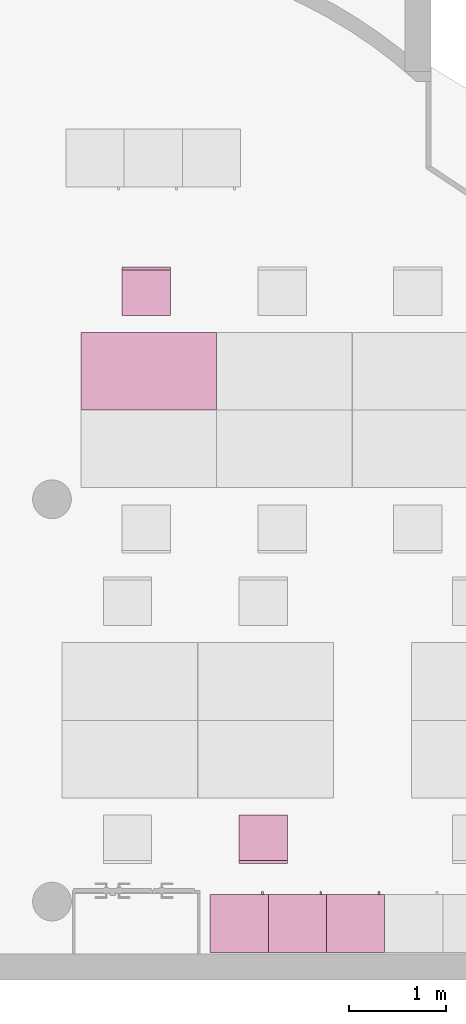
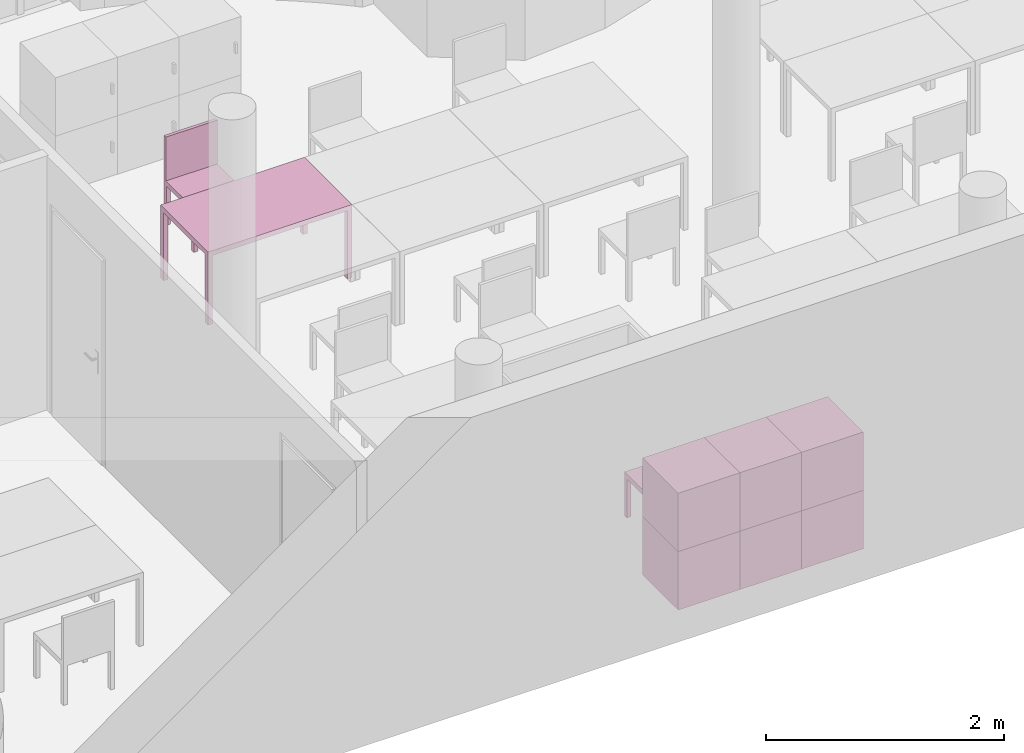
"""IFC4 building model written with IfcOpenShell, lengths in metres."""

from ifc_helpers import new_model, entity, si_unit, converted_unit, derived_unit, frame, origin, place, context, subcontext, project, spatial, faceted_brep, element, save


model = new_model("IFC4")

# Units and contexts
model_context = context("Model", 3, precision=1e-05, world=origin())
body_context = subcontext(model_context, "Body", "Model", "MODEL_VIEW")
ifc_project = project(units=[si_unit("LENGTHUNIT", "METRE"), si_unit("AREAUNIT", "SQUARE_METRE"), si_unit("VOLUMEUNIT", "CUBIC_METRE"), si_unit("MASSUNIT", "GRAM", prefix="KILO"), converted_unit("PLANEANGLEUNIT", "DEGREE", entity("IfcPlaneAngleMeasure", 0.0174532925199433), si_unit("PLANEANGLEUNIT", "RADIAN"), dimensions=[0, 0, 0, 0, 0, 0, 0]), derived_unit("THERMALTRANSMITTANCEUNIT", [(si_unit("POWERUNIT", "WATT"), 1), (si_unit("THERMODYNAMICTEMPERATUREUNIT", "KELVIN"), -1), (si_unit("LENGTHUNIT", "METRE"), -2)]), derived_unit("VOLUMETRICFLOWRATEUNIT", [(si_unit("LENGTHUNIT", "METRE"), 3), (converted_unit("TIMEUNIT", "hour", entity("IfcTimeMeasure", 3600.0), si_unit("TIMEUNIT", "SECOND"), dimensions=[0, 0, 1, 0, 0, 0, 0]), -1), (si_unit("LENGTHUNIT", "METRE"), -1)])], contexts=[model_context])

# Building, storeys
building_placement = place(None, origin())
building = spatial("IfcBuilding", under=ifc_project, at=building_placement, Name="HABITATGE PLURIFAMILIAR", CompositionType="ELEMENT")
storey_1_placement = place(building_placement, frame((0.0, 0.0, 18.29)))
storey_1 = spatial("IfcBuildingStorey", under=building, at=storey_1_placement, Name="PLANTA CINQUENA", CompositionType="ELEMENT", Elevation=18.29)
storey_2_placement = place(storey_1_placement, frame((0.0, 0.0, 15.28)))
storey_2 = spatial("IfcBuildingStorey", under=storey_1, at=storey_2_placement, Name="NOU", CompositionType="PARTIAL")

# Furniture
furniture_1_placement = place(storey_2_placement, frame((406.13406342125, 18.7194567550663, -15.28)))
element("IfcFurniture", 1, at=furniture_1_placement, inside=storey_2, Name="Taula 140X80_P5", context=body_context, shape_type="Brep", body=[
    faceted_brep([(0.04375, 0.05, 0.0), (0.0, 0.05, 0.0), (0.0, 0.0, 0.0), (0.04375, 0.0, 0.0), (0.04375, 0.0, 0.7), (0.0, 0.0, 0.7), (0.0, 0.05, 0.7), (0.04375, 0.05, 0.7)], [[[0, 1, 2, 3]], [[4, 5, 6, 7]], [[3, 4, 7, 0]], [[2, 5, 4, 3]], [[1, 6, 5, 2]], [[0, 7, 6, 1]]], orient=[[False], [False], [False], [False], [False], [False]]),
    faceted_brep([(0.04375, 0.800069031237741, 0.0), (0.0, 0.800069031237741, 0.0), (0.0, 0.750069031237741, 0.0), (0.04375, 0.750069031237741, 0.0), (0.04375, 0.750069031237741, 0.7), (0.0, 0.750069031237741, 0.7), (0.0, 0.800069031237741, 0.7), (0.04375, 0.800069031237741, 0.7)], [[[0, 1, 2, 3]], [[4, 5, 6, 7]], [[3, 4, 7, 0]], [[2, 5, 4, 3]], [[1, 6, 5, 2]], [[0, 7, 6, 1]]], orient=[[False], [False], [False], [False], [False], [False]]),
    faceted_brep([(1.39732768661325, 0.800069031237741, 0.7), (0.0, 0.800069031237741, 0.7), (0.0, 0.0, 0.7), (1.39732768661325, 0.0, 0.7), (1.39732768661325, 0.0, 0.75), (0.0, 0.0, 0.75), (0.0, 0.800069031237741, 0.75), (1.39732768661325, 0.800069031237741, 0.75)], [[[0, 1, 2, 3]], [[4, 5, 6, 7]], [[3, 4, 7, 0]], [[2, 5, 4, 3]], [[1, 6, 5, 2]], [[0, 7, 6, 1]]], orient=[[False], [False], [False], [False], [False], [False]]),
    faceted_brep([(1.39732768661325, 0.05, 0.0), (1.35357768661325, 0.05, 0.0), (1.35357768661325, 0.0, 0.0), (1.39732768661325, 0.0, 0.0), (1.39732768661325, 0.0, 0.7), (1.35357768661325, 0.0, 0.7), (1.35357768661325, 0.05, 0.7), (1.39732768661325, 0.05, 0.7)], [[[0, 1, 2, 3]], [[4, 5, 6, 7]], [[3, 4, 7, 0]], [[2, 5, 4, 3]], [[1, 6, 5, 2]], [[0, 7, 6, 1]]], orient=[[False], [False], [False], [False], [False], [False]]),
    faceted_brep([(1.39732768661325, 0.800069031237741, 0.0), (1.35357768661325, 0.800069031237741, 0.0), (1.35357768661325, 0.750069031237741, 0.0), (1.39732768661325, 0.750069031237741, 0.0), (1.39732768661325, 0.750069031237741, 0.7), (1.35357768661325, 0.750069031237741, 0.7), (1.35357768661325, 0.800069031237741, 0.7), (1.39732768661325, 0.800069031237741, 0.7)], [[[0, 1, 2, 3]], [[4, 5, 6, 7]], [[3, 4, 7, 0]], [[2, 5, 4, 3]], [[1, 6, 5, 2]], [[0, 7, 6, 1]]], orient=[[False], [False], [False], [False], [False], [False]]),
])
furniture_2_placement = place(storey_2_placement, frame((408.669266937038, 13.1230771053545, -15.2800000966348)))
element("IfcFurniture", 2, at=furniture_2_placement, inside=storey_2, Name="Armai 60x60x60_P5", context=body_context, shape_type="Brep", body=[
    faceted_brep([(0.600000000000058, 0.6, 0.02), (0.0, 0.6, 0.02), (0.0, 0.6, 0.0), (0.600000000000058, 0.6, 0.0), (0.0, 0.0, 0.02), (0.0, 0.0, 0.0), (0.600000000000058, 0.0, 0.02), (0.600000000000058, 0.0, 0.0)], [[[0, 1, 2, 3]], [[1, 4, 5, 2]], [[4, 6, 7, 5]], [[6, 0, 3, 7]], [[0, 6, 4, 1]], [[3, 2, 5, 7]]], orient=[[False], [False], [False], [False], [False], [False]]),
    faceted_brep([(0.02, 0.0, 0.58), (0.02, 0.0, 0.02), (0.02, 0.0200000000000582, 0.02), (0.02, 0.0200000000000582, 0.58), (0.58, 0.0, 0.02), (0.58, 0.0200000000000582, 0.02), (0.58, 0.0, 0.58), (0.58, 0.0200000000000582, 0.58)], [[[0, 1, 2, 3]], [[1, 4, 5, 2]], [[4, 6, 7, 5]], [[6, 0, 3, 7]], [[0, 6, 4, 1]], [[3, 2, 5, 7]]], orient=[[False], [False], [False], [False], [False], [False]]),
    faceted_brep([(0.58, 0.6, 0.58), (0.58, 0.6, 0.02), (0.6, 0.6, 0.02), (0.6, 0.6, 0.58), (0.58, 0.0, 0.02), (0.6, 0.0, 0.02), (0.58, 0.0, 0.58), (0.6, 0.0, 0.58)], [[[0, 1, 2, 3]], [[1, 4, 5, 2]], [[4, 6, 7, 5]], [[6, 0, 3, 7]], [[0, 6, 4, 1]], [[3, 2, 5, 7]]], orient=[[False], [False], [False], [False], [False], [False]]),
    faceted_brep([(0.600000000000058, 0.58, 0.58), (0.600000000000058, 0.58, 0.02), (0.600000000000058, 0.6, 0.02), (0.600000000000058, 0.6, 0.58), (0.580000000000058, 0.58, 0.02), (0.580000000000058, 0.6, 0.02), (0.580000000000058, 0.58, 0.58), (0.580000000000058, 0.6, 0.58)], [[[0, 1, 2, 3]], [[1, 4, 5, 2]], [[4, 6, 7, 5]], [[6, 0, 3, 7]], [[0, 6, 4, 1]], [[3, 2, 5, 7]]], orient=[[False], [False], [False], [False], [False], [False]]),
    faceted_brep([(0.0, 0.6, 0.58), (0.0, 0.6, 0.02), (0.0200000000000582, 0.6, 0.02), (0.0200000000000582, 0.6, 0.58), (0.0, 0.0, 0.02), (0.0200000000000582, 0.0, 0.02), (0.0, 0.0, 0.58), (0.0200000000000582, 0.0, 0.58)], [[[0, 1, 2, 3]], [[1, 4, 5, 2]], [[4, 6, 7, 5]], [[6, 0, 3, 7]], [[0, 6, 4, 1]], [[3, 2, 5, 7]]], orient=[[False], [False], [False], [False], [False], [False]]),
    faceted_brep([(0.6, 0.600000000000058, 0.6), (0.0, 0.600000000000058, 0.6), (0.0, 0.600000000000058, 0.58), (0.6, 0.600000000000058, 0.58), (0.0, 0.0, 0.6), (0.0, 0.0, 0.58), (0.6, 0.0, 0.6), (0.6, 0.0, 0.58)], [[[0, 1, 2, 3]], [[1, 4, 5, 2]], [[4, 6, 7, 5]], [[6, 0, 3, 7]], [[0, 6, 4, 1]], [[3, 2, 5, 7]]], orient=[[False], [False], [False], [False], [False], [False]]),
    faceted_brep([(0.02, 0.580000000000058, 0.58), (0.02, 0.580000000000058, 0.02), (0.02, 0.600000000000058, 0.02), (0.02, 0.600000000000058, 0.58), (0.580000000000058, 0.580000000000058, 0.02), (0.580000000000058, 0.600000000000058, 0.02), (0.580000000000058, 0.580000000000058, 0.58), (0.580000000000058, 0.600000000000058, 0.58)], [[[0, 1, 2, 3]], [[1, 4, 5, 2]], [[4, 6, 7, 5]], [[6, 0, 3, 7]], [[0, 6, 4, 1]], [[3, 2, 5, 7]]], orient=[[False], [False], [False], [False], [False], [False]]),
    faceted_brep([(0.53, 0.600000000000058, 0.358064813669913), (0.53, 0.600000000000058, 0.258064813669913), (0.53, 0.630000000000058, 0.258064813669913), (0.53, 0.630000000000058, 0.358064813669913), (0.55, 0.600000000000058, 0.258064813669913), (0.55, 0.630000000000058, 0.258064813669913), (0.55, 0.600000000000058, 0.358064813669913), (0.55, 0.630000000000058, 0.358064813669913)], [[[0, 1, 2, 3]], [[1, 4, 5, 2]], [[4, 6, 7, 5]], [[6, 0, 3, 7]], [[0, 6, 4, 1]], [[3, 2, 5, 7]]], orient=[[False], [False], [False], [False], [False], [False]]),
])
furniture_3_placement = place(storey_2_placement, frame((408.069266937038, 13.1230771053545, -15.2800000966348)))
element("IfcFurniture", 3, at=furniture_3_placement, inside=storey_2, Name="Armai 60x60x60_P5", context=body_context, shape_type="Brep", body=[
    faceted_brep([(0.600000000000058, 0.6, 0.02), (0.0, 0.6, 0.02), (0.0, 0.6, 0.0), (0.600000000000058, 0.6, 0.0), (0.0, 0.0, 0.02), (0.0, 0.0, 0.0), (0.600000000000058, 0.0, 0.02), (0.600000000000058, 0.0, 0.0)], [[[0, 1, 2, 3]], [[1, 4, 5, 2]], [[4, 6, 7, 5]], [[6, 0, 3, 7]], [[0, 6, 4, 1]], [[3, 2, 5, 7]]], orient=[[False], [False], [False], [False], [False], [False]]),
    faceted_brep([(0.02, 0.0, 0.58), (0.02, 0.0, 0.02), (0.02, 0.0200000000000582, 0.02), (0.02, 0.0200000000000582, 0.58), (0.58, 0.0, 0.02), (0.58, 0.0200000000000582, 0.02), (0.58, 0.0, 0.58), (0.58, 0.0200000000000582, 0.58)], [[[0, 1, 2, 3]], [[1, 4, 5, 2]], [[4, 6, 7, 5]], [[6, 0, 3, 7]], [[0, 6, 4, 1]], [[3, 2, 5, 7]]], orient=[[False], [False], [False], [False], [False], [False]]),
    faceted_brep([(0.58, 0.6, 0.58), (0.58, 0.6, 0.02), (0.6, 0.6, 0.02), (0.6, 0.6, 0.58), (0.58, 0.0, 0.02), (0.6, 0.0, 0.02), (0.58, 0.0, 0.58), (0.6, 0.0, 0.58)], [[[0, 1, 2, 3]], [[1, 4, 5, 2]], [[4, 6, 7, 5]], [[6, 0, 3, 7]], [[0, 6, 4, 1]], [[3, 2, 5, 7]]], orient=[[False], [False], [False], [False], [False], [False]]),
    faceted_brep([(0.600000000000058, 0.58, 0.58), (0.600000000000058, 0.58, 0.02), (0.600000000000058, 0.6, 0.02), (0.600000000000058, 0.6, 0.58), (0.580000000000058, 0.58, 0.02), (0.580000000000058, 0.6, 0.02), (0.580000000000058, 0.58, 0.58), (0.580000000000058, 0.6, 0.58)], [[[0, 1, 2, 3]], [[1, 4, 5, 2]], [[4, 6, 7, 5]], [[6, 0, 3, 7]], [[0, 6, 4, 1]], [[3, 2, 5, 7]]], orient=[[False], [False], [False], [False], [False], [False]]),
    faceted_brep([(0.0, 0.6, 0.58), (0.0, 0.6, 0.02), (0.0200000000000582, 0.6, 0.02), (0.0200000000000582, 0.6, 0.58), (0.0, 0.0, 0.02), (0.0200000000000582, 0.0, 0.02), (0.0, 0.0, 0.58), (0.0200000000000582, 0.0, 0.58)], [[[0, 1, 2, 3]], [[1, 4, 5, 2]], [[4, 6, 7, 5]], [[6, 0, 3, 7]], [[0, 6, 4, 1]], [[3, 2, 5, 7]]], orient=[[False], [False], [False], [False], [False], [False]]),
    faceted_brep([(0.6, 0.600000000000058, 0.6), (0.0, 0.600000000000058, 0.6), (0.0, 0.600000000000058, 0.58), (0.6, 0.600000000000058, 0.58), (0.0, 0.0, 0.6), (0.0, 0.0, 0.58), (0.6, 0.0, 0.6), (0.6, 0.0, 0.58)], [[[0, 1, 2, 3]], [[1, 4, 5, 2]], [[4, 6, 7, 5]], [[6, 0, 3, 7]], [[0, 6, 4, 1]], [[3, 2, 5, 7]]], orient=[[False], [False], [False], [False], [False], [False]]),
    faceted_brep([(0.02, 0.580000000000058, 0.58), (0.02, 0.580000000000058, 0.02), (0.02, 0.600000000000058, 0.02), (0.02, 0.600000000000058, 0.58), (0.580000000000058, 0.580000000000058, 0.02), (0.580000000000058, 0.600000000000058, 0.02), (0.580000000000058, 0.580000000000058, 0.58), (0.580000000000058, 0.600000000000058, 0.58)], [[[0, 1, 2, 3]], [[1, 4, 5, 2]], [[4, 6, 7, 5]], [[6, 0, 3, 7]], [[0, 6, 4, 1]], [[3, 2, 5, 7]]], orient=[[False], [False], [False], [False], [False], [False]]),
    faceted_brep([(0.53, 0.600000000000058, 0.358064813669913), (0.53, 0.600000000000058, 0.258064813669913), (0.53, 0.630000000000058, 0.258064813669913), (0.53, 0.630000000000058, 0.358064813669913), (0.55, 0.600000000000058, 0.258064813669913), (0.55, 0.630000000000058, 0.258064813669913), (0.55, 0.600000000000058, 0.358064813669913), (0.55, 0.630000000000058, 0.358064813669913)], [[[0, 1, 2, 3]], [[1, 4, 5, 2]], [[4, 6, 7, 5]], [[6, 0, 3, 7]], [[0, 6, 4, 1]], [[3, 2, 5, 7]]], orient=[[False], [False], [False], [False], [False], [False]]),
])
furniture_4_placement = place(storey_2_placement, frame((407.469266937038, 13.1230771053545, -15.2800000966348)))
element("IfcFurniture", 4, at=furniture_4_placement, inside=storey_2, Name="Armai 60x60x60_P5", context=body_context, shape_type="Brep", body=[
    faceted_brep([(0.600000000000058, 0.6, 0.02), (0.0, 0.6, 0.02), (0.0, 0.6, 0.0), (0.600000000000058, 0.6, 0.0), (0.0, 0.0, 0.02), (0.0, 0.0, 0.0), (0.600000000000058, 0.0, 0.02), (0.600000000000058, 0.0, 0.0)], [[[0, 1, 2, 3]], [[1, 4, 5, 2]], [[4, 6, 7, 5]], [[6, 0, 3, 7]], [[0, 6, 4, 1]], [[3, 2, 5, 7]]], orient=[[False], [False], [False], [False], [False], [False]]),
    faceted_brep([(0.02, 0.0, 0.58), (0.02, 0.0, 0.02), (0.02, 0.0200000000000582, 0.02), (0.02, 0.0200000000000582, 0.58), (0.58, 0.0, 0.02), (0.58, 0.0200000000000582, 0.02), (0.58, 0.0, 0.58), (0.58, 0.0200000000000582, 0.58)], [[[0, 1, 2, 3]], [[1, 4, 5, 2]], [[4, 6, 7, 5]], [[6, 0, 3, 7]], [[0, 6, 4, 1]], [[3, 2, 5, 7]]], orient=[[False], [False], [False], [False], [False], [False]]),
    faceted_brep([(0.58, 0.6, 0.58), (0.58, 0.6, 0.02), (0.6, 0.6, 0.02), (0.6, 0.6, 0.58), (0.58, 0.0, 0.02), (0.6, 0.0, 0.02), (0.58, 0.0, 0.58), (0.6, 0.0, 0.58)], [[[0, 1, 2, 3]], [[1, 4, 5, 2]], [[4, 6, 7, 5]], [[6, 0, 3, 7]], [[0, 6, 4, 1]], [[3, 2, 5, 7]]], orient=[[False], [False], [False], [False], [False], [False]]),
    faceted_brep([(0.600000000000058, 0.58, 0.58), (0.600000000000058, 0.58, 0.02), (0.600000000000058, 0.6, 0.02), (0.600000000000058, 0.6, 0.58), (0.580000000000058, 0.58, 0.02), (0.580000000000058, 0.6, 0.02), (0.580000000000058, 0.58, 0.58), (0.580000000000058, 0.6, 0.58)], [[[0, 1, 2, 3]], [[1, 4, 5, 2]], [[4, 6, 7, 5]], [[6, 0, 3, 7]], [[0, 6, 4, 1]], [[3, 2, 5, 7]]], orient=[[False], [False], [False], [False], [False], [False]]),
    faceted_brep([(0.0, 0.6, 0.58), (0.0, 0.6, 0.02), (0.0200000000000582, 0.6, 0.02), (0.0200000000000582, 0.6, 0.58), (0.0, 0.0, 0.02), (0.0200000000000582, 0.0, 0.02), (0.0, 0.0, 0.58), (0.0200000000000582, 0.0, 0.58)], [[[0, 1, 2, 3]], [[1, 4, 5, 2]], [[4, 6, 7, 5]], [[6, 0, 3, 7]], [[0, 6, 4, 1]], [[3, 2, 5, 7]]], orient=[[False], [False], [False], [False], [False], [False]]),
    faceted_brep([(0.6, 0.600000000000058, 0.6), (0.0, 0.600000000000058, 0.6), (0.0, 0.600000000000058, 0.58), (0.6, 0.600000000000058, 0.58), (0.0, 0.0, 0.6), (0.0, 0.0, 0.58), (0.6, 0.0, 0.6), (0.6, 0.0, 0.58)], [[[0, 1, 2, 3]], [[1, 4, 5, 2]], [[4, 6, 7, 5]], [[6, 0, 3, 7]], [[0, 6, 4, 1]], [[3, 2, 5, 7]]], orient=[[False], [False], [False], [False], [False], [False]]),
    faceted_brep([(0.02, 0.580000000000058, 0.58), (0.02, 0.580000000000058, 0.02), (0.02, 0.600000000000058, 0.02), (0.02, 0.600000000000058, 0.58), (0.580000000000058, 0.580000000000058, 0.02), (0.580000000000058, 0.600000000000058, 0.02), (0.580000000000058, 0.580000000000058, 0.58), (0.580000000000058, 0.600000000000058, 0.58)], [[[0, 1, 2, 3]], [[1, 4, 5, 2]], [[4, 6, 7, 5]], [[6, 0, 3, 7]], [[0, 6, 4, 1]], [[3, 2, 5, 7]]], orient=[[False], [False], [False], [False], [False], [False]]),
    faceted_brep([(0.53, 0.600000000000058, 0.358064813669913), (0.53, 0.600000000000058, 0.258064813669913), (0.53, 0.630000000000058, 0.258064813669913), (0.53, 0.630000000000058, 0.358064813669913), (0.55, 0.600000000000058, 0.258064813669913), (0.55, 0.630000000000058, 0.258064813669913), (0.55, 0.600000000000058, 0.358064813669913), (0.55, 0.630000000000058, 0.358064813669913)], [[[0, 1, 2, 3]], [[1, 4, 5, 2]], [[4, 6, 7, 5]], [[6, 0, 3, 7]], [[0, 6, 4, 1]], [[3, 2, 5, 7]]], orient=[[False], [False], [False], [False], [False], [False]]),
])
furniture_5_placement = place(storey_2_placement, frame((408.669266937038, 13.1230771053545, -14.6800000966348)))
element("IfcFurniture", 5, at=furniture_5_placement, inside=storey_2, Name="Armai 60x60x60_P5", context=body_context, shape_type="Brep", body=[
    faceted_brep([(0.600000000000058, 0.6, 0.02), (0.0, 0.6, 0.02), (0.0, 0.6, 0.0), (0.600000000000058, 0.6, 0.0), (0.0, 0.0, 0.02), (0.0, 0.0, 0.0), (0.600000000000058, 0.0, 0.02), (0.600000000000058, 0.0, 0.0)], [[[0, 1, 2, 3]], [[1, 4, 5, 2]], [[4, 6, 7, 5]], [[6, 0, 3, 7]], [[0, 6, 4, 1]], [[3, 2, 5, 7]]], orient=[[False], [False], [False], [False], [False], [False]]),
    faceted_brep([(0.02, 0.0, 0.58), (0.02, 0.0, 0.02), (0.02, 0.0200000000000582, 0.02), (0.02, 0.0200000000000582, 0.58), (0.58, 0.0, 0.02), (0.58, 0.0200000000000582, 0.02), (0.58, 0.0, 0.58), (0.58, 0.0200000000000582, 0.58)], [[[0, 1, 2, 3]], [[1, 4, 5, 2]], [[4, 6, 7, 5]], [[6, 0, 3, 7]], [[0, 6, 4, 1]], [[3, 2, 5, 7]]], orient=[[False], [False], [False], [False], [False], [False]]),
    faceted_brep([(0.58, 0.6, 0.58), (0.58, 0.6, 0.02), (0.6, 0.6, 0.02), (0.6, 0.6, 0.58), (0.58, 0.0, 0.02), (0.6, 0.0, 0.02), (0.58, 0.0, 0.58), (0.6, 0.0, 0.58)], [[[0, 1, 2, 3]], [[1, 4, 5, 2]], [[4, 6, 7, 5]], [[6, 0, 3, 7]], [[0, 6, 4, 1]], [[3, 2, 5, 7]]], orient=[[False], [False], [False], [False], [False], [False]]),
    faceted_brep([(0.600000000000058, 0.58, 0.58), (0.600000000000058, 0.58, 0.02), (0.600000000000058, 0.6, 0.02), (0.600000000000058, 0.6, 0.58), (0.580000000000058, 0.58, 0.02), (0.580000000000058, 0.6, 0.02), (0.580000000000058, 0.58, 0.58), (0.580000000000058, 0.6, 0.58)], [[[0, 1, 2, 3]], [[1, 4, 5, 2]], [[4, 6, 7, 5]], [[6, 0, 3, 7]], [[0, 6, 4, 1]], [[3, 2, 5, 7]]], orient=[[False], [False], [False], [False], [False], [False]]),
    faceted_brep([(0.0, 0.6, 0.58), (0.0, 0.6, 0.02), (0.0200000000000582, 0.6, 0.02), (0.0200000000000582, 0.6, 0.58), (0.0, 0.0, 0.02), (0.0200000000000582, 0.0, 0.02), (0.0, 0.0, 0.58), (0.0200000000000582, 0.0, 0.58)], [[[0, 1, 2, 3]], [[1, 4, 5, 2]], [[4, 6, 7, 5]], [[6, 0, 3, 7]], [[0, 6, 4, 1]], [[3, 2, 5, 7]]], orient=[[False], [False], [False], [False], [False], [False]]),
    faceted_brep([(0.6, 0.600000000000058, 0.6), (0.0, 0.600000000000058, 0.6), (0.0, 0.600000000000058, 0.58), (0.6, 0.600000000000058, 0.58), (0.0, 0.0, 0.6), (0.0, 0.0, 0.58), (0.6, 0.0, 0.6), (0.6, 0.0, 0.58)], [[[0, 1, 2, 3]], [[1, 4, 5, 2]], [[4, 6, 7, 5]], [[6, 0, 3, 7]], [[0, 6, 4, 1]], [[3, 2, 5, 7]]], orient=[[False], [False], [False], [False], [False], [False]]),
    faceted_brep([(0.02, 0.580000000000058, 0.58), (0.02, 0.580000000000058, 0.02), (0.02, 0.600000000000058, 0.02), (0.02, 0.600000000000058, 0.58), (0.580000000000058, 0.580000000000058, 0.02), (0.580000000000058, 0.600000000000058, 0.02), (0.580000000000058, 0.580000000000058, 0.58), (0.580000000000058, 0.600000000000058, 0.58)], [[[0, 1, 2, 3]], [[1, 4, 5, 2]], [[4, 6, 7, 5]], [[6, 0, 3, 7]], [[0, 6, 4, 1]], [[3, 2, 5, 7]]], orient=[[False], [False], [False], [False], [False], [False]]),
    faceted_brep([(0.53, 0.600000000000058, 0.358064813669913), (0.53, 0.600000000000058, 0.258064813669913), (0.53, 0.630000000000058, 0.258064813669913), (0.53, 0.630000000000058, 0.358064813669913), (0.55, 0.600000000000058, 0.258064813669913), (0.55, 0.630000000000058, 0.258064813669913), (0.55, 0.600000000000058, 0.358064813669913), (0.55, 0.630000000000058, 0.358064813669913)], [[[0, 1, 2, 3]], [[1, 4, 5, 2]], [[4, 6, 7, 5]], [[6, 0, 3, 7]], [[0, 6, 4, 1]], [[3, 2, 5, 7]]], orient=[[False], [False], [False], [False], [False], [False]]),
])
furniture_6_placement = place(storey_2_placement, frame((408.069266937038, 13.1230771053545, -14.6800000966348)))
element("IfcFurniture", 6, at=furniture_6_placement, inside=storey_2, Name="Armai 60x60x60_P5", context=body_context, shape_type="Brep", body=[
    faceted_brep([(0.600000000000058, 0.6, 0.02), (0.0, 0.6, 0.02), (0.0, 0.6, 0.0), (0.600000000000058, 0.6, 0.0), (0.0, 0.0, 0.02), (0.0, 0.0, 0.0), (0.600000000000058, 0.0, 0.02), (0.600000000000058, 0.0, 0.0)], [[[0, 1, 2, 3]], [[1, 4, 5, 2]], [[4, 6, 7, 5]], [[6, 0, 3, 7]], [[0, 6, 4, 1]], [[3, 2, 5, 7]]], orient=[[False], [False], [False], [False], [False], [False]]),
    faceted_brep([(0.02, 0.0, 0.58), (0.02, 0.0, 0.02), (0.02, 0.0200000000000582, 0.02), (0.02, 0.0200000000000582, 0.58), (0.58, 0.0, 0.02), (0.58, 0.0200000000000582, 0.02), (0.58, 0.0, 0.58), (0.58, 0.0200000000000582, 0.58)], [[[0, 1, 2, 3]], [[1, 4, 5, 2]], [[4, 6, 7, 5]], [[6, 0, 3, 7]], [[0, 6, 4, 1]], [[3, 2, 5, 7]]], orient=[[False], [False], [False], [False], [False], [False]]),
    faceted_brep([(0.58, 0.6, 0.58), (0.58, 0.6, 0.02), (0.6, 0.6, 0.02), (0.6, 0.6, 0.58), (0.58, 0.0, 0.02), (0.6, 0.0, 0.02), (0.58, 0.0, 0.58), (0.6, 0.0, 0.58)], [[[0, 1, 2, 3]], [[1, 4, 5, 2]], [[4, 6, 7, 5]], [[6, 0, 3, 7]], [[0, 6, 4, 1]], [[3, 2, 5, 7]]], orient=[[False], [False], [False], [False], [False], [False]]),
    faceted_brep([(0.600000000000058, 0.58, 0.58), (0.600000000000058, 0.58, 0.02), (0.600000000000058, 0.6, 0.02), (0.600000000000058, 0.6, 0.58), (0.580000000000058, 0.58, 0.02), (0.580000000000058, 0.6, 0.02), (0.580000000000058, 0.58, 0.58), (0.580000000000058, 0.6, 0.58)], [[[0, 1, 2, 3]], [[1, 4, 5, 2]], [[4, 6, 7, 5]], [[6, 0, 3, 7]], [[0, 6, 4, 1]], [[3, 2, 5, 7]]], orient=[[False], [False], [False], [False], [False], [False]]),
    faceted_brep([(0.0, 0.6, 0.58), (0.0, 0.6, 0.02), (0.0200000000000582, 0.6, 0.02), (0.0200000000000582, 0.6, 0.58), (0.0, 0.0, 0.02), (0.0200000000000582, 0.0, 0.02), (0.0, 0.0, 0.58), (0.0200000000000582, 0.0, 0.58)], [[[0, 1, 2, 3]], [[1, 4, 5, 2]], [[4, 6, 7, 5]], [[6, 0, 3, 7]], [[0, 6, 4, 1]], [[3, 2, 5, 7]]], orient=[[False], [False], [False], [False], [False], [False]]),
    faceted_brep([(0.6, 0.600000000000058, 0.6), (0.0, 0.600000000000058, 0.6), (0.0, 0.600000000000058, 0.58), (0.6, 0.600000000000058, 0.58), (0.0, 0.0, 0.6), (0.0, 0.0, 0.58), (0.6, 0.0, 0.6), (0.6, 0.0, 0.58)], [[[0, 1, 2, 3]], [[1, 4, 5, 2]], [[4, 6, 7, 5]], [[6, 0, 3, 7]], [[0, 6, 4, 1]], [[3, 2, 5, 7]]], orient=[[False], [False], [False], [False], [False], [False]]),
    faceted_brep([(0.02, 0.580000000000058, 0.58), (0.02, 0.580000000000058, 0.02), (0.02, 0.600000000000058, 0.02), (0.02, 0.600000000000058, 0.58), (0.580000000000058, 0.580000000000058, 0.02), (0.580000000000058, 0.600000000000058, 0.02), (0.580000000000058, 0.580000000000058, 0.58), (0.580000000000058, 0.600000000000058, 0.58)], [[[0, 1, 2, 3]], [[1, 4, 5, 2]], [[4, 6, 7, 5]], [[6, 0, 3, 7]], [[0, 6, 4, 1]], [[3, 2, 5, 7]]], orient=[[False], [False], [False], [False], [False], [False]]),
    faceted_brep([(0.53, 0.600000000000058, 0.358064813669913), (0.53, 0.600000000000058, 0.258064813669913), (0.53, 0.630000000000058, 0.258064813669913), (0.53, 0.630000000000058, 0.358064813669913), (0.55, 0.600000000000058, 0.258064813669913), (0.55, 0.630000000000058, 0.258064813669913), (0.55, 0.600000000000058, 0.358064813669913), (0.55, 0.630000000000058, 0.358064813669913)], [[[0, 1, 2, 3]], [[1, 4, 5, 2]], [[4, 6, 7, 5]], [[6, 0, 3, 7]], [[0, 6, 4, 1]], [[3, 2, 5, 7]]], orient=[[False], [False], [False], [False], [False], [False]]),
])
furniture_7_placement = place(storey_2_placement, frame((407.469266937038, 13.1230771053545, -14.6800000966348)))
element("IfcFurniture", 7, at=furniture_7_placement, inside=storey_2, Name="Armai 60x60x60_P5", context=body_context, shape_type="Brep", body=[
    faceted_brep([(0.600000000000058, 0.6, 0.02), (0.0, 0.6, 0.02), (0.0, 0.6, 0.0), (0.600000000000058, 0.6, 0.0), (0.0, 0.0, 0.02), (0.0, 0.0, 0.0), (0.600000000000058, 0.0, 0.02), (0.600000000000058, 0.0, 0.0)], [[[0, 1, 2, 3]], [[1, 4, 5, 2]], [[4, 6, 7, 5]], [[6, 0, 3, 7]], [[0, 6, 4, 1]], [[3, 2, 5, 7]]], orient=[[False], [False], [False], [False], [False], [False]]),
    faceted_brep([(0.02, 0.0, 0.58), (0.02, 0.0, 0.02), (0.02, 0.0200000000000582, 0.02), (0.02, 0.0200000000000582, 0.58), (0.58, 0.0, 0.02), (0.58, 0.0200000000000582, 0.02), (0.58, 0.0, 0.58), (0.58, 0.0200000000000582, 0.58)], [[[0, 1, 2, 3]], [[1, 4, 5, 2]], [[4, 6, 7, 5]], [[6, 0, 3, 7]], [[0, 6, 4, 1]], [[3, 2, 5, 7]]], orient=[[False], [False], [False], [False], [False], [False]]),
    faceted_brep([(0.58, 0.6, 0.58), (0.58, 0.6, 0.02), (0.6, 0.6, 0.02), (0.6, 0.6, 0.58), (0.58, 0.0, 0.02), (0.6, 0.0, 0.02), (0.58, 0.0, 0.58), (0.6, 0.0, 0.58)], [[[0, 1, 2, 3]], [[1, 4, 5, 2]], [[4, 6, 7, 5]], [[6, 0, 3, 7]], [[0, 6, 4, 1]], [[3, 2, 5, 7]]], orient=[[False], [False], [False], [False], [False], [False]]),
    faceted_brep([(0.600000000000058, 0.58, 0.58), (0.600000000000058, 0.58, 0.02), (0.600000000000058, 0.6, 0.02), (0.600000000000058, 0.6, 0.58), (0.580000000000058, 0.58, 0.02), (0.580000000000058, 0.6, 0.02), (0.580000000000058, 0.58, 0.58), (0.580000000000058, 0.6, 0.58)], [[[0, 1, 2, 3]], [[1, 4, 5, 2]], [[4, 6, 7, 5]], [[6, 0, 3, 7]], [[0, 6, 4, 1]], [[3, 2, 5, 7]]], orient=[[False], [False], [False], [False], [False], [False]]),
    faceted_brep([(0.0, 0.6, 0.58), (0.0, 0.6, 0.02), (0.0200000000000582, 0.6, 0.02), (0.0200000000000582, 0.6, 0.58), (0.0, 0.0, 0.02), (0.0200000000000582, 0.0, 0.02), (0.0, 0.0, 0.58), (0.0200000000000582, 0.0, 0.58)], [[[0, 1, 2, 3]], [[1, 4, 5, 2]], [[4, 6, 7, 5]], [[6, 0, 3, 7]], [[0, 6, 4, 1]], [[3, 2, 5, 7]]], orient=[[False], [False], [False], [False], [False], [False]]),
    faceted_brep([(0.6, 0.600000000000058, 0.6), (0.0, 0.600000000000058, 0.6), (0.0, 0.600000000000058, 0.58), (0.6, 0.600000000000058, 0.58), (0.0, 0.0, 0.6), (0.0, 0.0, 0.58), (0.6, 0.0, 0.6), (0.6, 0.0, 0.58)], [[[0, 1, 2, 3]], [[1, 4, 5, 2]], [[4, 6, 7, 5]], [[6, 0, 3, 7]], [[0, 6, 4, 1]], [[3, 2, 5, 7]]], orient=[[False], [False], [False], [False], [False], [False]]),
    faceted_brep([(0.02, 0.580000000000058, 0.58), (0.02, 0.580000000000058, 0.02), (0.02, 0.600000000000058, 0.02), (0.02, 0.600000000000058, 0.58), (0.580000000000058, 0.580000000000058, 0.02), (0.580000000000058, 0.600000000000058, 0.02), (0.580000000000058, 0.580000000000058, 0.58), (0.580000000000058, 0.600000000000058, 0.58)], [[[0, 1, 2, 3]], [[1, 4, 5, 2]], [[4, 6, 7, 5]], [[6, 0, 3, 7]], [[0, 6, 4, 1]], [[3, 2, 5, 7]]], orient=[[False], [False], [False], [False], [False], [False]]),
    faceted_brep([(0.53, 0.600000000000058, 0.358064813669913), (0.53, 0.600000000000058, 0.258064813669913), (0.53, 0.630000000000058, 0.258064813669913), (0.53, 0.630000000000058, 0.358064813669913), (0.55, 0.600000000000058, 0.258064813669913), (0.55, 0.630000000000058, 0.258064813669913), (0.55, 0.600000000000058, 0.358064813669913), (0.55, 0.630000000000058, 0.358064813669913)], [[[0, 1, 2, 3]], [[1, 4, 5, 2]], [[4, 6, 7, 5]], [[6, 0, 3, 7]], [[0, 6, 4, 1]], [[3, 2, 5, 7]]], orient=[[False], [False], [False], [False], [False], [False]]),
])
furniture_8_placement = place(storey_2_placement, frame((407.767044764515, 14.0425643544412, -15.2746385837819)))
element("IfcFurniture", 8, at=furniture_8_placement, inside=storey_2, Name="Cadira d'Oficina_P5", context=body_context, shape_type="Brep", body=[
    faceted_brep([(0.0, 0.500000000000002, 0.4), (0.0, 0.0, 0.4), (0.5, 0.0, 0.4), (0.5, 0.499999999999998, 0.4), (0.0, 0.0, 0.45), (0.0, 0.500000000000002, 0.45), (0.5, 0.499999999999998, 0.45), (0.5, 0.0, 0.45)], [[[0, 1, 2, 3]], [[4, 5, 6, 7]], [[1, 0, 5, 4]], [[2, 1, 4, 7]], [[3, 2, 7, 6]], [[0, 3, 6, 5]]], orient=[[False], [False], [False], [False], [False], [False]]),
    faceted_brep([(0.5, 0.04, 0.0), (0.46, 0.04, 0.0), (0.46, 0.0, 0.0), (0.5, 0.0, 0.0), (0.46, 0.04, 0.4), (0.5, 0.04, 0.4), (0.5, 0.0, 0.4), (0.46, 0.0, 0.4)], [[[0, 1, 2, 3]], [[4, 5, 6, 7]], [[1, 0, 5, 4]], [[2, 1, 4, 7]], [[3, 2, 7, 6]], [[0, 3, 6, 5]]], orient=[[False], [False], [False], [False], [False], [False]]),
    faceted_brep([(0.5, 0.499999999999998, 0.0), (0.46, 0.5, 0.0), (0.46, 0.46, 0.0), (0.5, 0.459999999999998, 0.0), (0.46, 0.5, 0.4), (0.5, 0.499999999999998, 0.4), (0.5, 0.459999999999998, 0.4), (0.46, 0.46, 0.4)], [[[0, 1, 2, 3]], [[4, 5, 6, 7]], [[1, 0, 5, 4]], [[2, 1, 4, 7]], [[3, 2, 7, 6]], [[0, 3, 6, 5]]], orient=[[False], [False], [False], [False], [False], [False]]),
    faceted_brep([(0.04, 0.04, 0.0), (0.0, 0.0400000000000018, 0.0), (0.0, 0.0, 0.0), (0.04, 0.0, 0.0), (0.0, 0.0400000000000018, 0.4), (0.04, 0.04, 0.4), (0.04, 0.0, 0.4), (0.0, 0.0, 0.4)], [[[0, 1, 2, 3]], [[4, 5, 6, 7]], [[1, 0, 5, 4]], [[2, 1, 4, 7]], [[3, 2, 7, 6]], [[0, 3, 6, 5]]], orient=[[False], [False], [False], [False], [False], [False]]),
    faceted_brep([(0.04, 0.5, 0.0), (0.0, 0.500000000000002, 0.0), (0.0, 0.460000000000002, 0.0), (0.04, 0.46, 0.0), (0.0, 0.500000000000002, 0.4), (0.04, 0.5, 0.4), (0.04, 0.46, 0.4), (0.0, 0.460000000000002, 0.4)], [[[0, 1, 2, 3]], [[4, 5, 6, 7]], [[1, 0, 5, 4]], [[2, 1, 4, 7]], [[3, 2, 7, 6]], [[0, 3, 6, 5]]], orient=[[False], [False], [False], [False], [False], [False]]),
    faceted_brep([(0.5, 0.03, 0.45), (0.0, 0.0300000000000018, 0.45), (0.0, 0.0, 0.45), (0.5, 0.0, 0.45), (0.0, 0.0300000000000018, 0.9), (0.5, 0.03, 0.9), (0.5, 0.0, 0.9), (0.0, 0.0, 0.9)], [[[0, 1, 2, 3]], [[4, 5, 6, 7]], [[1, 0, 5, 4]], [[2, 1, 4, 7]], [[3, 2, 7, 6]], [[0, 3, 6, 5]]], orient=[[False], [False], [False], [False], [False], [False]]),
])
furniture_9_placement = place(storey_2_placement, frame((406.559092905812, 19.696211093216, -15.2746385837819)))
element("IfcFurniture", 9, at=furniture_9_placement, inside=storey_2, Name="Cadira d'Oficina_P5", context=body_context, shape_type="Brep", body=[
    faceted_brep([(0.0, 0.0, 0.4), (0.5, 0.0, 0.4), (0.5, 0.500000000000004, 0.4), (0.0, 0.5, 0.4), (0.0, 0.5, 0.45), (0.5, 0.500000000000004, 0.45), (0.5, 0.0, 0.45), (0.0, 0.0, 0.45)], [[[0, 1, 2, 3]], [[4, 5, 6, 7]], [[3, 4, 7, 0]], [[2, 5, 4, 3]], [[1, 6, 5, 2]], [[0, 7, 6, 1]]], orient=[[False], [False], [False], [False], [False], [False]]),
    faceted_brep([(0.5, 0.460000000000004, 0.0), (0.5, 0.500000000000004, 0.0), (0.46, 0.5, 0.0), (0.46, 0.46, 0.0), (0.46, 0.46, 0.4), (0.46, 0.5, 0.4), (0.5, 0.500000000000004, 0.4), (0.5, 0.460000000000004, 0.4)], [[[0, 1, 2, 3]], [[4, 5, 6, 7]], [[3, 4, 7, 0]], [[2, 5, 4, 3]], [[1, 6, 5, 2]], [[0, 7, 6, 1]]], orient=[[False], [False], [False], [False], [False], [False]]),
    faceted_brep([(0.5, 0.0, 0.0), (0.5, 0.0400000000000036, 0.0), (0.46, 0.04, 0.0), (0.46, 0.0, 0.0), (0.46, 0.0, 0.4), (0.46, 0.04, 0.4), (0.5, 0.0400000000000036, 0.4), (0.5, 0.0, 0.4)], [[[0, 1, 2, 3]], [[4, 5, 6, 7]], [[3, 4, 7, 0]], [[2, 5, 4, 3]], [[1, 6, 5, 2]], [[0, 7, 6, 1]]], orient=[[False], [False], [False], [False], [False], [False]]),
    faceted_brep([(0.04, 0.46, 0.0), (0.04, 0.5, 0.0), (0.0, 0.5, 0.0), (0.0, 0.46, 0.0), (0.0, 0.46, 0.4), (0.0, 0.5, 0.4), (0.04, 0.5, 0.4), (0.04, 0.46, 0.4)], [[[0, 1, 2, 3]], [[4, 5, 6, 7]], [[3, 4, 7, 0]], [[2, 5, 4, 3]], [[1, 6, 5, 2]], [[0, 7, 6, 1]]], orient=[[False], [False], [False], [False], [False], [False]]),
    faceted_brep([(0.04, 0.0, 0.0), (0.04, 0.04, 0.0), (0.0, 0.04, 0.0), (0.0, 0.0, 0.0), (0.0, 0.0, 0.4), (0.0, 0.04, 0.4), (0.04, 0.04, 0.4), (0.04, 0.0, 0.4)], [[[0, 1, 2, 3]], [[4, 5, 6, 7]], [[3, 4, 7, 0]], [[2, 5, 4, 3]], [[1, 6, 5, 2]], [[0, 7, 6, 1]]], orient=[[False], [False], [False], [False], [False], [False]]),
    faceted_brep([(0.5, 0.470000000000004, 0.45), (0.5, 0.500000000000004, 0.45), (0.0, 0.5, 0.45), (0.0, 0.47, 0.45), (0.0, 0.47, 0.9), (0.0, 0.5, 0.9), (0.5, 0.500000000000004, 0.9), (0.5, 0.470000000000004, 0.9)], [[[0, 1, 2, 3]], [[4, 5, 6, 7]], [[3, 4, 7, 0]], [[2, 5, 4, 3]], [[1, 6, 5, 2]], [[0, 7, 6, 1]]], orient=[[False], [False], [False], [False], [False], [False]]),
])

save(model, "model.ifc")
